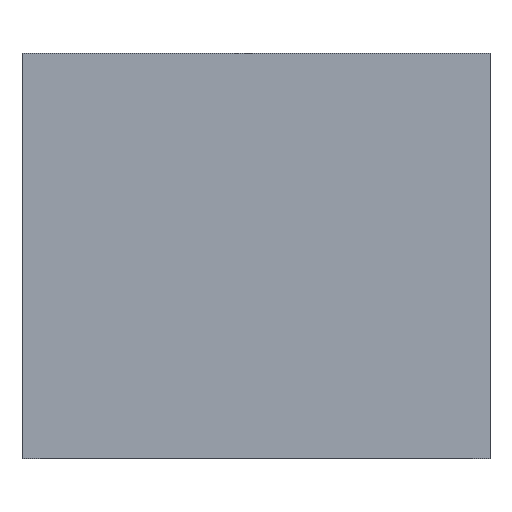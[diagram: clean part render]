
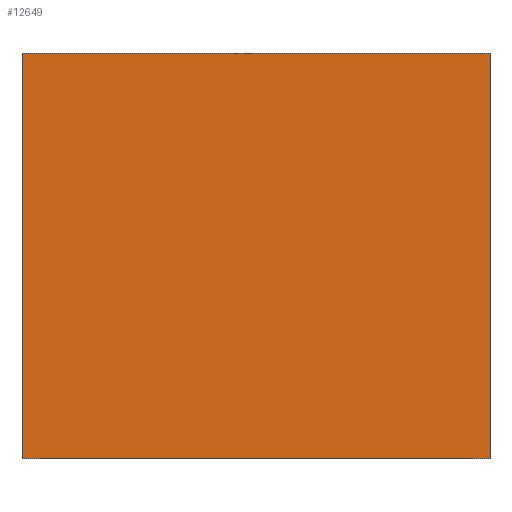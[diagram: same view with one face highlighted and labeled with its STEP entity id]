
A CAD part, top view. The second image highlights one B-rep face of the part: STEP entity #12649.
In plain terms, the highlighted planar face has unit normal (0, 0, 1).
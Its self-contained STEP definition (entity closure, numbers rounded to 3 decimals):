
#1232=ORIENTED_EDGE('',*,*,#4880,.T.);
#1233=ORIENTED_EDGE('',*,*,#4906,.F.);
#1234=ORIENTED_EDGE('',*,*,#4888,.F.);
#1235=ORIENTED_EDGE('',*,*,#4905,.T.);
#4880=EDGE_CURVE('',#6713,#6712,#7942,.T.);
#4888=EDGE_CURVE('',#6720,#6721,#7950,.T.);
#4905=EDGE_CURVE('',#6720,#6713,#7961,.T.);
#4906=EDGE_CURVE('',#6721,#6712,#7962,.T.);
#6712=VERTEX_POINT('',#18809);
#6713=VERTEX_POINT('',#18811);
#6720=VERTEX_POINT('',#18827);
#6721=VERTEX_POINT('',#18829);
#7942=LINE('',#18810,#9216);
#7950=LINE('',#18828,#9224);
#7961=LINE('',#18858,#9235);
#7962=LINE('',#18860,#9236);
#9216=VECTOR('',#15012,1000.);
#9224=VECTOR('',#15024,1000.);
#9235=VECTOR('',#15051,1000.);
#9236=VECTOR('',#15054,1000.);
#10473=EDGE_LOOP('',(#1232,#1233,#1234,#1235));
#11377=FACE_BOUND('',#10473,.T.);
#12235=PLANE('',#13566);
#12649=ADVANCED_FACE('',(#11377),#12235,.F.);
#13566=AXIS2_PLACEMENT_3D('',#18859,#15052,#15053);
#15012=DIRECTION('',(-1.,0.,0.));
#15024=DIRECTION('',(-1.,0.,0.));
#15051=DIRECTION('',(0.,1.,0.));
#15052=DIRECTION('',(0.,0.,-1.));
#15053=DIRECTION('',(-1.,0.,0.));
#15054=DIRECTION('',(0.,1.,0.));
#18809=CARTESIAN_POINT('',(-231.,200.,75.));
#18810=CARTESIAN_POINT('',(0.,200.,75.));
#18811=CARTESIAN_POINT('',(231.,200.,75.));
#18827=CARTESIAN_POINT('',(231.,-200.,75.));
#18828=CARTESIAN_POINT('',(0.,-200.,75.));
#18829=CARTESIAN_POINT('',(-231.,-200.,75.));
#18858=CARTESIAN_POINT('',(231.,-200.,75.));
#18859=CARTESIAN_POINT('',(0.,-200.,75.));
#18860=CARTESIAN_POINT('',(-231.,-200.,75.));
